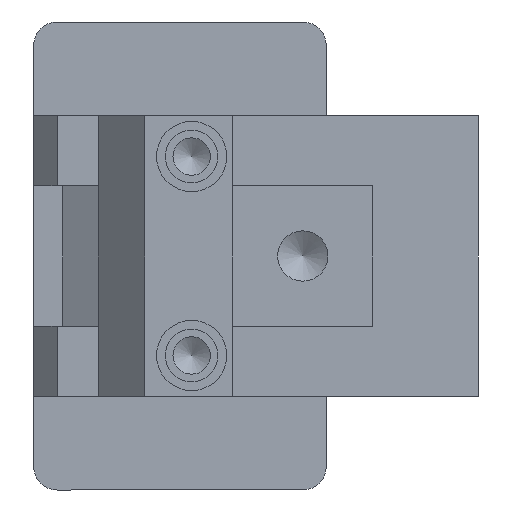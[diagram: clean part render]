
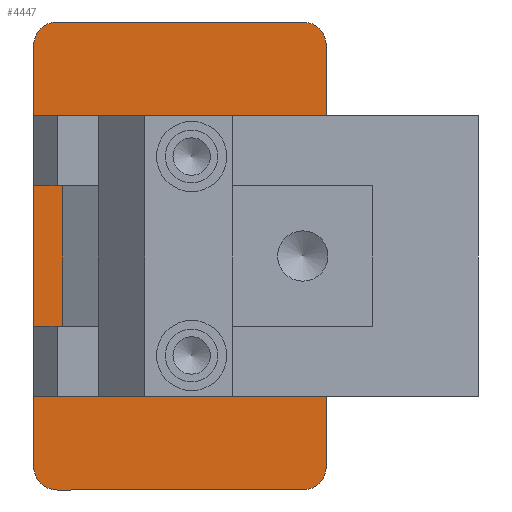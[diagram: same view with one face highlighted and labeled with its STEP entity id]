
A CAD part, left-side view. The second image highlights one B-rep face of the part: STEP entity #4447.
In plain terms, the highlighted planar face has unit normal (-1, 0, 0) as drawn and (0, 0, 1) by its records, which use the part's own axes.
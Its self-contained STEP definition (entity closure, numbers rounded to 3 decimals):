
#214=FACE_BOUND('',#676,.T.);
#215=FACE_BOUND('',#677,.T.);
#216=FACE_BOUND('',#678,.T.);
#217=FACE_BOUND('',#679,.T.);
#277=PLANE('',#4923);
#419=FACE_OUTER_BOUND('',#675,.T.);
#675=EDGE_LOOP('',(#3150,#3151,#3152,#3153,#3154,#3155,#3156,#3157));
#676=EDGE_LOOP('',(#3158));
#677=EDGE_LOOP('',(#3159));
#678=EDGE_LOOP('',(#3160));
#679=EDGE_LOOP('',(#3161));
#971=LINE('',#6695,#1358);
#977=LINE('',#6710,#1364);
#979=LINE('',#6716,#1366);
#981=LINE('',#6722,#1368);
#1358=VECTOR('',#5421,10.);
#1364=VECTOR('',#5437,10.);
#1366=VECTOR('',#5445,10.);
#1368=VECTOR('',#5453,10.);
#1722=CIRCLE('',#4893,2.);
#1733=CIRCLE('',#4907,2.);
#1734=CIRCLE('',#4909,2.);
#1735=CIRCLE('',#4912,2.);
#1736=CIRCLE('',#4915,2.1);
#1737=CIRCLE('',#4918,2.);
#1738=CIRCLE('',#4920,2.);
#1739=CIRCLE('',#4922,3.1);
#1937=VERTEX_POINT('',#6659);
#1938=VERTEX_POINT('',#6660);
#1953=VERTEX_POINT('',#6694);
#1954=VERTEX_POINT('',#6698);
#1955=VERTEX_POINT('',#6702);
#1956=VERTEX_POINT('',#6704);
#1957=VERTEX_POINT('',#6708);
#1958=VERTEX_POINT('',#6712);
#1959=VERTEX_POINT('',#6718);
#1960=VERTEX_POINT('',#6724);
#1961=VERTEX_POINT('',#6728);
#1962=VERTEX_POINT('',#6732);
#2393=EDGE_CURVE('',#1937,#1938,#1722,.T.);
#2410=EDGE_CURVE('',#1938,#1953,#971,.T.);
#2412=EDGE_CURVE('',#1953,#1954,#1733,.T.);
#2415=EDGE_CURVE('',#1955,#1956,#1734,.T.);
#2418=EDGE_CURVE('',#1957,#1955,#977,.T.);
#2419=EDGE_CURVE('',#1958,#1957,#1735,.T.);
#2421=EDGE_CURVE('',#1937,#1956,#979,.T.);
#2422=EDGE_CURVE('',#1959,#1959,#1736,.T.);
#2424=EDGE_CURVE('',#1958,#1954,#981,.T.);
#2426=EDGE_CURVE('',#1960,#1960,#1737,.T.);
#2428=EDGE_CURVE('',#1961,#1961,#1738,.T.);
#2430=EDGE_CURVE('',#1962,#1962,#1739,.T.);
#3150=ORIENTED_EDGE('',*,*,#2393,.F.);
#3151=ORIENTED_EDGE('',*,*,#2421,.T.);
#3152=ORIENTED_EDGE('',*,*,#2415,.F.);
#3153=ORIENTED_EDGE('',*,*,#2418,.F.);
#3154=ORIENTED_EDGE('',*,*,#2419,.F.);
#3155=ORIENTED_EDGE('',*,*,#2424,.T.);
#3156=ORIENTED_EDGE('',*,*,#2412,.F.);
#3157=ORIENTED_EDGE('',*,*,#2410,.F.);
#3158=ORIENTED_EDGE('',*,*,#2422,.T.);
#3159=ORIENTED_EDGE('',*,*,#2426,.T.);
#3160=ORIENTED_EDGE('',*,*,#2428,.T.);
#3161=ORIENTED_EDGE('',*,*,#2430,.T.);
#4447=ADVANCED_FACE('',(#419,#214,#215,#216,#217),#277,.T.);
#4893=AXIS2_PLACEMENT_3D('',#6661,#5389,#5390);
#4907=AXIS2_PLACEMENT_3D('',#6699,#5425,#5426);
#4909=AXIS2_PLACEMENT_3D('',#6705,#5431,#5432);
#4912=AXIS2_PLACEMENT_3D('',#6713,#5440,#5441);
#4915=AXIS2_PLACEMENT_3D('',#6719,#5448,#5449);
#4918=AXIS2_PLACEMENT_3D('',#6726,#5457,#5458);
#4920=AXIS2_PLACEMENT_3D('',#6730,#5462,#5463);
#4922=AXIS2_PLACEMENT_3D('',#6734,#5467,#5468);
#4923=AXIS2_PLACEMENT_3D('',#6735,#5469,#5470);
#5389=DIRECTION('center_axis',(0.,0.,-1.));
#5390=DIRECTION('ref_axis',(-0.707,-0.707,0.));
#5421=DIRECTION('',(0.,1.,0.));
#5425=DIRECTION('center_axis',(0.,0.,-1.));
#5426=DIRECTION('ref_axis',(-0.707,0.707,0.));
#5431=DIRECTION('center_axis',(0.,0.,-1.));
#5432=DIRECTION('ref_axis',(0.707,-0.707,0.));
#5437=DIRECTION('',(0.,-1.,0.));
#5440=DIRECTION('center_axis',(0.,0.,-1.));
#5441=DIRECTION('ref_axis',(0.707,0.707,0.));
#5445=DIRECTION('',(1.,0.,0.));
#5448=DIRECTION('center_axis',(0.,0.,-1.));
#5449=DIRECTION('ref_axis',(-1.,0.,0.));
#5453=DIRECTION('',(-1.,0.,0.));
#5457=DIRECTION('center_axis',(0.,0.,-1.));
#5458=DIRECTION('ref_axis',(-1.,0.,0.));
#5462=DIRECTION('center_axis',(0.,0.,-1.));
#5463=DIRECTION('ref_axis',(-1.,0.,0.));
#5467=DIRECTION('center_axis',(0.,0.,-1.));
#5468=DIRECTION('ref_axis',(-1.,0.,0.));
#5469=DIRECTION('center_axis',(0.,0.,1.));
#5470=DIRECTION('ref_axis',(1.,0.,0.));
#6659=CARTESIAN_POINT('',(21.216,18.045,8.));
#6660=CARTESIAN_POINT('',(19.216,20.045,8.));
#6661=CARTESIAN_POINT('Origin',(21.216,20.045,8.));
#6694=CARTESIAN_POINT('',(19.216,41.045,8.));
#6695=CARTESIAN_POINT('',(19.216,41.045,8.));
#6698=CARTESIAN_POINT('',(21.216,43.045,8.));
#6699=CARTESIAN_POINT('Origin',(21.216,41.045,8.));
#6702=CARTESIAN_POINT('',(59.216,20.045,8.));
#6704=CARTESIAN_POINT('',(57.216,18.045,8.));
#6705=CARTESIAN_POINT('Origin',(57.216,20.045,8.));
#6708=CARTESIAN_POINT('',(59.216,41.045,8.));
#6710=CARTESIAN_POINT('',(59.216,21.045,8.));
#6712=CARTESIAN_POINT('',(57.216,43.045,8.));
#6713=CARTESIAN_POINT('Origin',(57.216,41.045,8.));
#6716=CARTESIAN_POINT('',(59.216,18.045,8.));
#6718=CARTESIAN_POINT('',(41.316,37.045,8.));
#6719=CARTESIAN_POINT('Origin',(39.216,37.045,8.));
#6722=CARTESIAN_POINT('',(19.216,43.045,8.));
#6724=CARTESIAN_POINT('',(32.216,30.045,8.));
#6726=CARTESIAN_POINT('Origin',(30.216,30.045,8.));
#6728=CARTESIAN_POINT('',(50.216,30.045,8.));
#6730=CARTESIAN_POINT('Origin',(48.216,30.045,8.));
#6732=CARTESIAN_POINT('',(42.316,30.045,8.));
#6734=CARTESIAN_POINT('Origin',(39.216,30.045,8.));
#6735=CARTESIAN_POINT('Origin',(39.216,31.045,8.));
